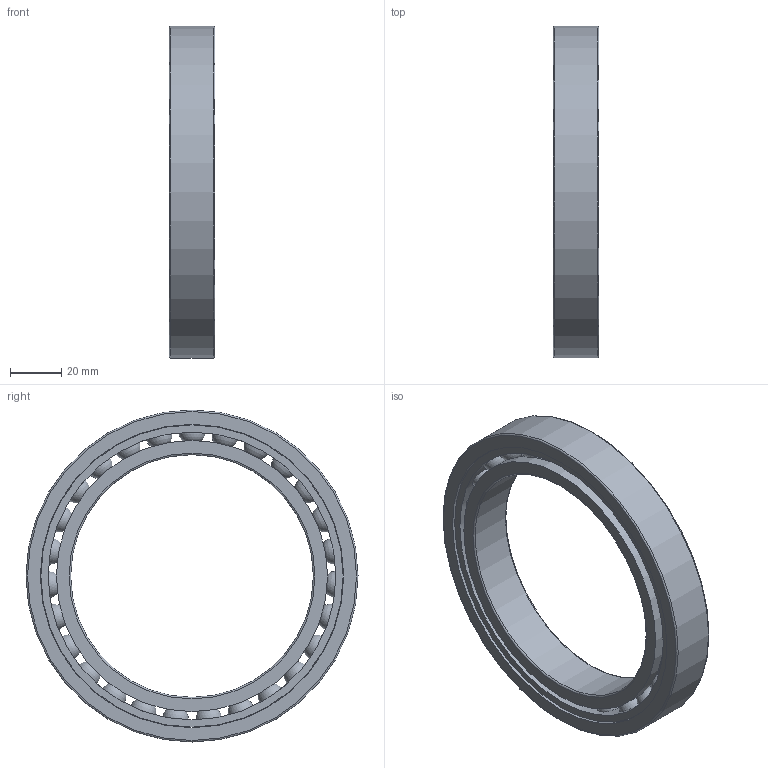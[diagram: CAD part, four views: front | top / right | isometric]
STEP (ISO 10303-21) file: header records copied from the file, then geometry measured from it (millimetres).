
FILE_DESCRIPTION(/* description */ (''),/* implementation_level */ '2;1');
FILE_NAME(/* name */ 'SM_61919_TA.step',/* time_stamp */ '2013-03-11T11:36:02+01:00',/* author */ ('Marian'),/* organization */ ('GMN'),/* preprocessor_version */ 'ST-DEVELOPER v11',/* originating_system */ 'SIEMENS UGS NX 6.0',/* authorisation */ '');
FILE_SCHEMA (('CONFIG_CONTROL_DESIGN'));
Length unit declared in the file: millimetre
Products named in the file (1): SM_61919_TA
Bounding box: 18 x 130 x 130 mm (x, y, z)
Volume: 83252.5 mm3; surface area: 53492 mm2
Topology: 30 solids, 30 shells, 74 faces, 196 edges, 128 vertices
Faces by surface type: cylinder 34, sphere 27, torus 6, plane 6, cone 1
Full cylindrical faces by diameter (mm): 10.519 x27, 95 x1, 106.2 x2, 112.639 x1, 118.35 x1, 118.75 x1, 130 x1
Entity records: 2496 total; most frequent: CARTESIAN_POINT 1168, DIRECTION 190, FACE_BOUND 175, EDGE_LOOP 148, ORIENTED_EDGE 148, VERTEX_POINT 101, AXIS2_PLACEMENT_3D 95, EDGE_CURVE 74
